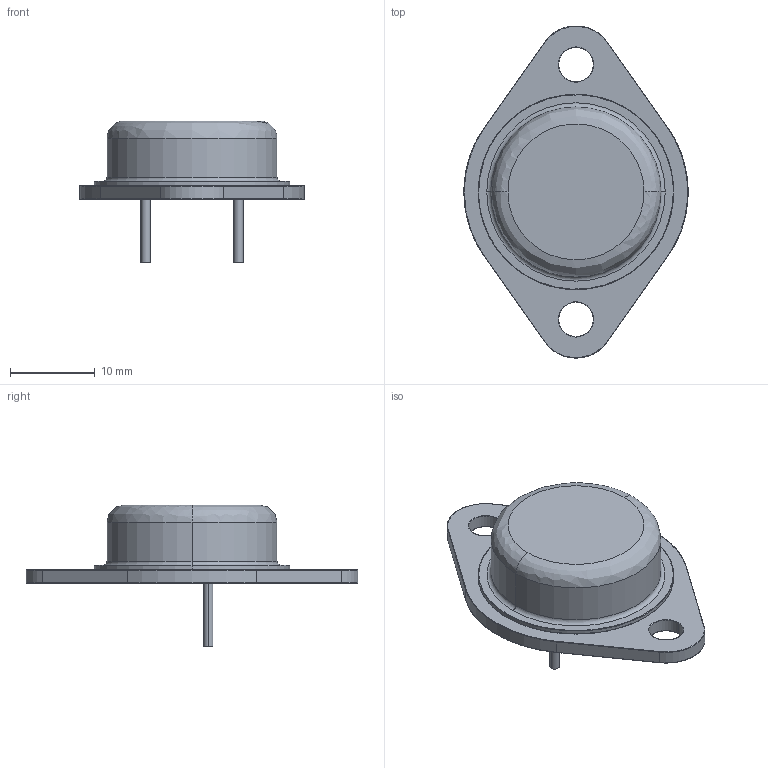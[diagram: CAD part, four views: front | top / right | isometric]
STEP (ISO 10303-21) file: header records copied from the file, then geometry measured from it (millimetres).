
FILE_DESCRIPTION (( 'STEP AP214' ), '1' );
FILE_NAME ('User Library-TO-3 (KT-9).STEP', '2016-06-11T20:47:01', ( 'Windows User' ), ( '' ), 'SwSTEP 2.0', 'SolidWorks 2016', '' );
FILE_SCHEMA (( 'AUTOMOTIVE_DESIGN' ));
Length unit declared in the file: millimetre
Products named in the file (4): User Library-TO-3 (KT-9)__X2_043A043E043B043F0430043A_X0_; User Library-TO-3 (KT-9)__X2_04380437043E043B044F0442043E0440044B_X0_; User Library-TO-3 (KT-9)__X2_043D043E0436043A0438_X0_; User Library-TO-3 (KT-9)
Assembly tree (3 placements, depth 2):
  User Library-TO-3 (KT-9)
    User Library-TO-3 (KT-9)__X2_043D043E0436043A0438_X0_
    User Library-TO-3 (KT-9)__X2_04380437043E043B044F0442043E0440044B_X0_
    User Library-TO-3 (KT-9)__X2_043A043E043B043F0430043A_X0_
Bounding box: 26.4 x 39.08 x 16.7 mm (x, y, z)
Volume: 1466.9 mm3; surface area: 3282.6 mm2
Topology: 6 solids, 6 shells, 107 faces, 222 edges, 129 vertices
Faces by surface type: bspline 46, cylinder 39, plane 18, torus 4
Entity records: 5284 total; most frequent: CARTESIAN_POINT 1848, ORIENTED_EDGE 444, DIRECTION 435, EDGE_CURVE 222, AXIS2_PLACEMENT_3D 192, VERTEX_POINT 129, CIRCLE 125, EDGE_LOOP 121
